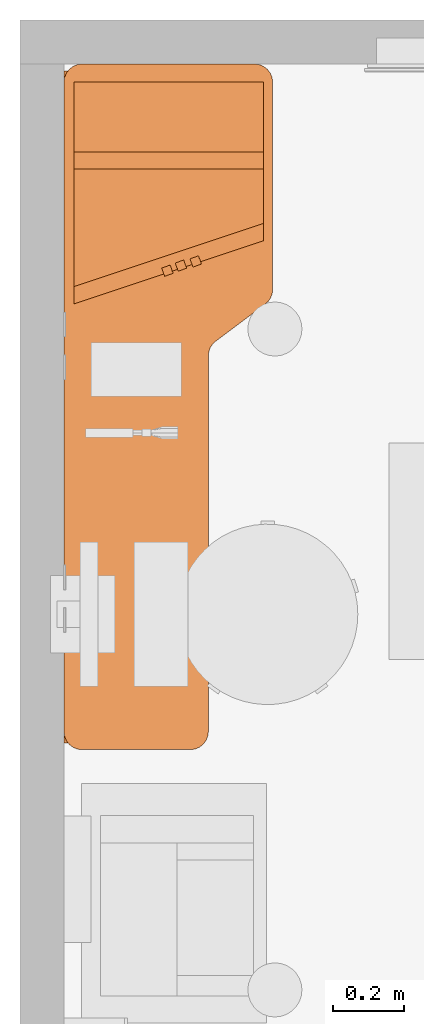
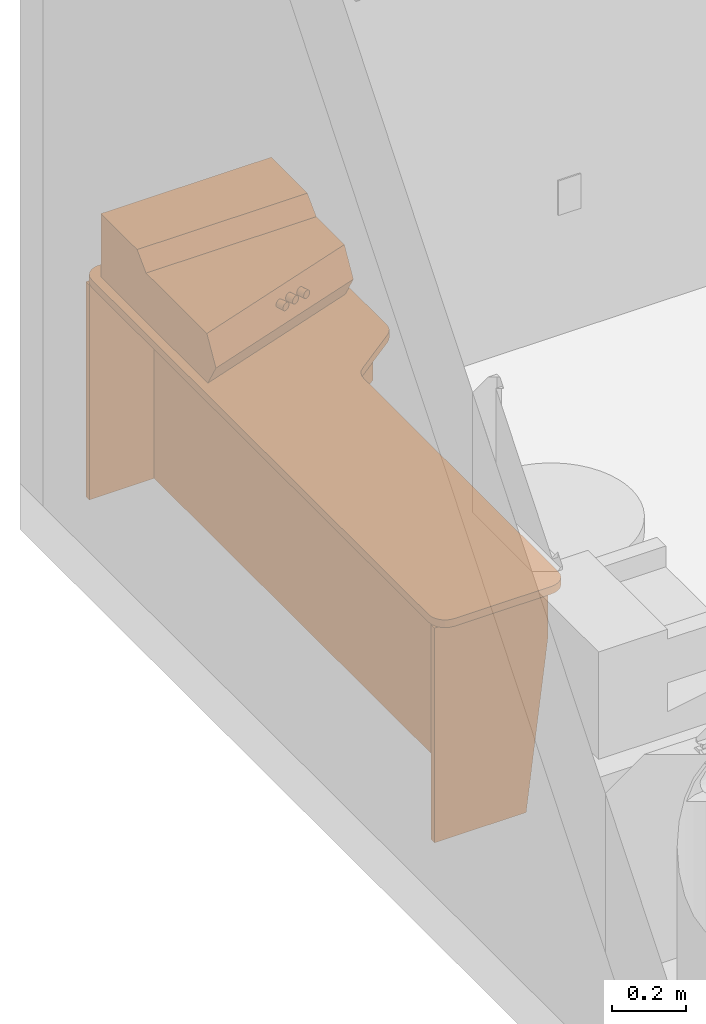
# One storey, part 7 of 11: 1 proxy.
"""IFC2X3 building model written with IfcOpenShell, lengths in feet."""

from ifc_helpers import new_model, entity, si_unit, converted_unit, derived_unit, direction, frame, origin, place, context, subcontext, project, spatial, faceted_brep, source, transform, mapped, material, type_object, type_shapes, element, save


model = new_model("IFC2X3")

# Units and contexts
model_context = context("Model", 3, precision=0.0001, world=origin(), true_north=direction((6.12303176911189e-17, 1.0)))
body_context = subcontext(model_context, "Body", "Model", "MODEL_VIEW")
ifc_project = project(units=[converted_unit("LENGTHUNIT", "FOOT", entity("IfcRatioMeasure", 0.3048), si_unit("LENGTHUNIT", "METRE"), dimensions=[1, 0, 0, 0, 0, 0, 0]), converted_unit("AREAUNIT", "SQUARE FOOT", entity("IfcRatioMeasure", 0.09290304), si_unit("AREAUNIT", "SQUARE_METRE"), dimensions=[2, 0, 0, 0, 0, 0, 0]), converted_unit("VOLUMEUNIT", "CUBIC FOOT", entity("IfcRatioMeasure", 0.028316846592), si_unit("VOLUMEUNIT", "CUBIC_METRE"), dimensions=[3, 0, 0, 0, 0, 0, 0]), converted_unit("PLANEANGLEUNIT", "DEGREE", entity("IfcRatioMeasure", 0.0174532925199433), si_unit("PLANEANGLEUNIT", "RADIAN"), dimensions=[0, 0, 0, 0, 0, 0, 0]), si_unit("MASSUNIT", "GRAM", prefix="KILO"), derived_unit("MASSDENSITYUNIT", [(si_unit("MASSUNIT", "GRAM", prefix="KILO"), 1), (si_unit("LENGTHUNIT", "METRE"), -3)]), si_unit("TIMEUNIT", "SECOND"), si_unit("FREQUENCYUNIT", "HERTZ"), si_unit("THERMODYNAMICTEMPERATUREUNIT", "DEGREE_CELSIUS"), derived_unit("THERMALTRANSMITTANCEUNIT", [(si_unit("MASSUNIT", "GRAM", prefix="KILO"), 1), (si_unit("THERMODYNAMICTEMPERATUREUNIT", "KELVIN"), -1), (si_unit("TIMEUNIT", "SECOND"), -3)]), derived_unit("VOLUMETRICFLOWRATEUNIT", [(si_unit("LENGTHUNIT", "METRE"), 3), (si_unit("TIMEUNIT", "SECOND"), -1)]), si_unit("ELECTRICCURRENTUNIT", "AMPERE"), si_unit("ELECTRICVOLTAGEUNIT", "VOLT"), si_unit("POWERUNIT", "WATT"), si_unit("FORCEUNIT", "NEWTON"), si_unit("ILLUMINANCEUNIT", "LUX"), si_unit("LUMINOUSFLUXUNIT", "LUMEN"), si_unit("LUMINOUSINTENSITYUNIT", "CANDELA"), derived_unit("USERDEFINED", [(si_unit("MASSUNIT", "GRAM", prefix="KILO"), -1), (si_unit("LENGTHUNIT", "METRE"), -2), (si_unit("TIMEUNIT", "SECOND"), 3), (si_unit("LUMINOUSFLUXUNIT", "LUMEN"), 1)]), derived_unit("LINEARVELOCITYUNIT", [(si_unit("LENGTHUNIT", "METRE"), 1), (si_unit("TIMEUNIT", "SECOND"), -1)]), si_unit("PRESSUREUNIT", "PASCAL"), derived_unit("USERDEFINED", [(si_unit("LENGTHUNIT", "METRE"), -2), (si_unit("MASSUNIT", "GRAM", prefix="KILO"), 1), (si_unit("TIMEUNIT", "SECOND"), -2)])], contexts=[model_context])

# Site, building, storey, space
site_placement = place(None, origin())
site = spatial("IfcSite", under=ifc_project, at=site_placement, Name="Default", CompositionType="ELEMENT")
building_placement = place(site_placement, origin())
building = spatial("IfcBuilding", under=site, at=building_placement, Name="EYE CLINIC:  OPTHALMOLOGY AND OPTOMETRY SERVICES (Ch. 233)", CompositionType="ELEMENT")
storey_placement = place(building_placement, origin())
storey = spatial("IfcBuildingStorey", under=building, at=storey_placement, Name="DATUM", CompositionType="ELEMENT", Elevation=0.0)
space_placement = place(storey_placement, origin())
space = spatial("IfcSpace", under=storey, at=space_placement, Name="(OPET2)", CompositionType="ELEMENT", InteriorOrExteriorSpace="INTERNAL")

# Proxy
ifc_material = material(Name="Paint White")
building_element_proxy_type = type_object("IfcBuildingElementProxyType", Name="M5016 - Desk, Refraction w-console, w-o Sink", PredefinedType="NOTDEFINED", material=ifc_material)
shared_shape = source(origin(), body_context, "Body", "Brep", [
    faceted_brep([(3.04166666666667, -0.500000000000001, 1.27083333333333), (3.04166666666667, -0.583333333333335, 1.27083333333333), (3.04166666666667, -0.583333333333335, 0.208333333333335), (3.04166666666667, -0.500000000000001, 0.208333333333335), (1.54166666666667, -0.500000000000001, 1.27083333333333), (1.54166666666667, -0.500000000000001, 0.208333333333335), (1.54166666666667, -0.583333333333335, 0.208333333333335), (1.54166666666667, -0.583333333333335, 1.27083333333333)], [[[0, 1, 2, 3]], [[4, 5, 6, 7]], [[1, 0, 4, 7]], [[2, 1, 7, 6]], [[3, 2, 6, 5]], [[0, 3, 5, 4]]]),
    faceted_brep([(3.04166666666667, -0.5, 1.79166666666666), (3.04166666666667, -0.583333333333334, 1.79166666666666), (3.04166666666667, -0.583333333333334, 1.29166666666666), (3.04166666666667, -0.5, 1.29166666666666), (1.54166666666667, -0.5, 1.79166666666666), (1.54166666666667, -0.5, 1.29166666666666), (1.54166666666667, -0.583333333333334, 1.29166666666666), (1.54166666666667, -0.583333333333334, 1.79166666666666)], [[[0, 1, 2, 3]], [[4, 5, 6, 7]], [[1, 0, 4, 7]], [[2, 1, 7, 6]], [[3, 2, 6, 5]], [[0, 3, 5, 4]]]),
    faceted_brep([(3.04166666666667, -0.5, 2.31249999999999), (3.04166666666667, -0.583333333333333, 2.31249999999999), (3.04166666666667, -0.583333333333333, 1.81249999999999), (3.04166666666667, -0.5, 1.81249999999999), (1.54166666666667, -0.5, 2.31249999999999), (1.54166666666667, -0.5, 1.81249999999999), (1.54166666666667, -0.583333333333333, 1.81249999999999), (1.54166666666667, -0.583333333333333, 2.31249999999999)], [[[0, 1, 2, 3]], [[4, 5, 6, 7]], [[1, 0, 4, 7]], [[2, 1, 7, 6]], [[3, 2, 6, 5]], [[0, 3, 5, 4]]]),
    faceted_brep([(3.04166666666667, -0.416666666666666, 0.208333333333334), (3.04166666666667, -0.416666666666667, 0.0), (3.04166666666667, -0.354166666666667, 0.0), (3.04166666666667, -0.354166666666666, 0.208333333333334), (1.54166666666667, -0.416666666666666, 0.208333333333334), (1.54166666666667, -0.354166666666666, 0.208333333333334), (1.54166666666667, -0.354166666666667, 0.0), (1.54166666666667, -0.416666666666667, 0.0)], [[[0, 1, 2, 3]], [[4, 5, 6, 7]], [[1, 0, 4, 7]], [[2, 1, 7, 6]], [[3, 2, 6, 5]], [[0, 3, 5, 4]]]),
    faceted_brep([(1.37724558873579, 0.14024584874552, 2.81666681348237), (1.37380855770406, 0.149689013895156, 2.82082933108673), (1.37085711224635, 0.157798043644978, 2.82745094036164), (1.3685923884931, 0.16402032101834, 2.83608038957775), (1.36716872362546, 0.167931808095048, 2.84612959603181), (1.36668313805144, 0.169265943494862, 2.85691372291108), (1.36716872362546, 0.167931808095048, 2.86769784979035), (1.3685923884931, 0.16402032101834, 2.87774705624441), (1.37085711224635, 0.157798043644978, 2.88637650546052), (1.37380855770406, 0.149689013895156, 2.89299811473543), (1.37724558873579, 0.14024584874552, 2.89716063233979), (1.38093397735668, 0.13011208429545, 2.89858038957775), (1.38462236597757, 0.119978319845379, 2.89716063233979), (1.3880593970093, 0.110535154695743, 2.89299811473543), (1.39101084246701, 0.102426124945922, 2.88637650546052), (1.39327556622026, 0.096203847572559, 2.87774705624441), (1.3946992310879, 0.0922923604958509, 2.86769784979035), (1.39518481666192, 0.0909582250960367, 2.85691372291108), (1.3946992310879, 0.0922923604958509, 2.84612959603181), (1.39327556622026, 0.0962038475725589, 2.83608038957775), (1.39101084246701, 0.102426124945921, 2.82745094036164), (1.3880593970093, 0.110535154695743, 2.82082933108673), (1.38462236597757, 0.119978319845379, 2.81666681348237), (1.38093397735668, 0.130112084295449, 2.81524705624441), (1.30501005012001, 0.10247803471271, 2.89858038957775), (1.30132166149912, 0.112611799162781, 2.89716063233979), (1.2978846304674, 0.122054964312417, 2.89299811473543), (1.29493318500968, 0.130163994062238, 2.88637650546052), (1.29266846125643, 0.136386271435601, 2.87774705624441), (1.29124479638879, 0.140297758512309, 2.86769784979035), (1.29075921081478, 0.141631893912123, 2.85691372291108), (1.29124479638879, 0.140297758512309, 2.84612959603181), (1.29266846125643, 0.136386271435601, 2.83608038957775), (1.29493318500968, 0.130163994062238, 2.82745094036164), (1.2978846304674, 0.122054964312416, 2.82082933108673), (1.30132166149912, 0.112611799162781, 2.81666681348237), (1.30501005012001, 0.10247803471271, 2.81524705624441), (1.30869843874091, 0.0923442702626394, 2.81666681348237), (1.31213546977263, 0.0829011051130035, 2.82082933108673), (1.31508691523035, 0.0747920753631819, 2.82745094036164), (1.3173516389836, 0.0685697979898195, 2.83608038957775), (1.31877530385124, 0.0646583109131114, 2.84612959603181), (1.31926088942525, 0.0633241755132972, 2.85691372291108), (1.31877530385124, 0.0646583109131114, 2.86769784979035), (1.3173516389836, 0.0685697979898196, 2.87774705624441), (1.31508691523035, 0.0747920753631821, 2.88637650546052), (1.31213546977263, 0.0829011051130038, 2.89299811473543), (1.30869843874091, 0.0923442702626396, 2.89716063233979)], [[[0, 1, 2, 3, 4, 5, 6, 7, 8, 9, 10, 11, 12, 13, 14, 15, 16, 17, 18, 19, 20, 21, 22, 23]], [[24, 25, 26, 27, 28, 29, 30, 31, 32, 33, 34, 35, 36, 37, 38, 39, 40, 41, 42, 43, 44, 45, 46, 47]], [[41, 18, 17, 42]], [[40, 19, 18, 41]], [[37, 36, 23, 22]], [[39, 20, 19, 40]], [[38, 21, 20, 39]], [[38, 37, 22, 21]], [[0, 35, 34, 1]], [[33, 2, 1, 34]], [[3, 32, 31, 4]], [[33, 32, 3, 2]], [[4, 31, 30, 5]], [[35, 0, 23, 36]], [[29, 6, 5, 30]], [[28, 7, 6, 29]], [[27, 26, 9, 8]], [[28, 27, 8, 7]], [[11, 10, 25, 24]], [[10, 9, 26, 25]], [[12, 47, 46, 13]], [[45, 14, 13, 46]], [[15, 44, 43, 16]], [[45, 44, 15, 14]], [[16, 43, 42, 17]], [[47, 12, 11, 24]]]),
    faceted_brep([(1.33868745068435, 0.277154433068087, 2.82708348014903), (1.33525041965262, 0.286597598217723, 2.83124599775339), (1.33229897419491, 0.294706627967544, 2.83786760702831), (1.33003425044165, 0.300928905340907, 2.84649705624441), (1.32861058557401, 0.304840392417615, 2.85654626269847), (1.328125, 0.306174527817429, 2.86733038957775), (1.32861058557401, 0.304840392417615, 2.87811451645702), (1.33003425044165, 0.300928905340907, 2.88816372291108), (1.3322989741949, 0.294706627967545, 2.89679317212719), (1.33525041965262, 0.286597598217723, 2.9034147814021), (1.33868745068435, 0.277154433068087, 2.90757729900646), (1.34237583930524, 0.267020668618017, 2.90899705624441), (1.34606422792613, 0.256886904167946, 2.90757729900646), (1.34950125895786, 0.24744373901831, 2.9034147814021), (1.35245270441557, 0.239334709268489, 2.89679317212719), (1.35471742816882, 0.233112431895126, 2.88816372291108), (1.35614109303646, 0.229200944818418, 2.87811451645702), (1.35662667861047, 0.227866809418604, 2.86733038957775), (1.35614109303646, 0.229200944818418, 2.85654626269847), (1.35471742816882, 0.233112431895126, 2.84649705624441), (1.35245270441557, 0.239334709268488, 2.83786760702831), (1.34950125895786, 0.24744373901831, 2.83124599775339), (1.34606422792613, 0.256886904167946, 2.82708348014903), (1.34237583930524, 0.267020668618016, 2.82566372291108), (1.26645191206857, 0.239386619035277, 2.90899705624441), (1.26276352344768, 0.249520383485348, 2.90757729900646), (1.25932649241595, 0.258963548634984, 2.9034147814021), (1.25637504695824, 0.267072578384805, 2.89679317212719), (1.25411032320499, 0.273294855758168, 2.88816372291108), (1.25268665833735, 0.277206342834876, 2.87811451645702), (1.25220107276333, 0.27854047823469, 2.86733038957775), (1.25268665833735, 0.277206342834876, 2.85654626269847), (1.25411032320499, 0.273294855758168, 2.84649705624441), (1.25637504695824, 0.267072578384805, 2.83786760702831), (1.25932649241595, 0.258963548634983, 2.83124599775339), (1.26276352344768, 0.249520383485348, 2.82708348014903), (1.26645191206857, 0.239386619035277, 2.82566372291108), (1.27014030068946, 0.229252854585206, 2.82708348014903), (1.27357733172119, 0.219809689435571, 2.83124599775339), (1.2765287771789, 0.211700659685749, 2.83786760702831), (1.27879350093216, 0.205478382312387, 2.84649705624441), (1.28021716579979, 0.201566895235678, 2.85654626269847), (1.28070275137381, 0.200232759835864, 2.86733038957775), (1.28021716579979, 0.201566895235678, 2.87811451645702), (1.27879350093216, 0.205478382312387, 2.88816372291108), (1.2765287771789, 0.211700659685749, 2.89679317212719), (1.27357733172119, 0.219809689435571, 2.9034147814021), (1.27014030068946, 0.229252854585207, 2.90757729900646)], [[[0, 1, 2, 3, 4, 5, 6, 7, 8, 9, 10, 11, 12, 13, 14, 15, 16, 17, 18, 19, 20, 21, 22, 23]], [[24, 25, 26, 27, 28, 29, 30, 31, 32, 33, 34, 35, 36, 37, 38, 39, 40, 41, 42, 43, 44, 45, 46, 47]], [[41, 18, 17, 42]], [[40, 19, 18, 41]], [[37, 36, 23, 22]], [[39, 20, 19, 40]], [[38, 21, 20, 39]], [[38, 37, 22, 21]], [[0, 35, 34, 1]], [[33, 2, 1, 34]], [[3, 32, 31, 4]], [[33, 32, 3, 2]], [[4, 31, 30, 5]], [[35, 0, 23, 36]], [[29, 6, 5, 30]], [[28, 7, 6, 29]], [[27, 26, 9, 8]], [[28, 27, 8, 7]], [[11, 10, 25, 24]], [[10, 9, 26, 25]], [[12, 47, 46, 13]], [[45, 14, 13, 46]], [[15, 44, 43, 16]], [[45, 44, 15, 14]], [[16, 43, 42, 17]], [[47, 12, 11, 24]]]),
    faceted_brep([(1.29181245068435, 0.402154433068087, 2.82708348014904), (1.28837541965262, 0.411597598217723, 2.83124599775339), (1.28542397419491, 0.419706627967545, 2.83786760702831), (1.28315925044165, 0.425928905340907, 2.84649705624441), (1.28173558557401, 0.429840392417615, 2.85654626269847), (1.28125, 0.43117452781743, 2.86733038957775), (1.28173558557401, 0.429840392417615, 2.87811451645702), (1.28315925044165, 0.425928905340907, 2.88816372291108), (1.2854239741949, 0.419706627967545, 2.89679317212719), (1.28837541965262, 0.411597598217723, 2.9034147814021), (1.29181245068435, 0.402154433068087, 2.90757729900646), (1.29550083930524, 0.392020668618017, 2.90899705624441), (1.29918922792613, 0.381886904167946, 2.90757729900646), (1.30262625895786, 0.37244373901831, 2.9034147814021), (1.30557770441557, 0.364334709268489, 2.89679317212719), (1.30784242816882, 0.358112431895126, 2.88816372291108), (1.30926609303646, 0.354200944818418, 2.87811451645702), (1.30975167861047, 0.352866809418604, 2.86733038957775), (1.30926609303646, 0.354200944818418, 2.85654626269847), (1.30784242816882, 0.358112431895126, 2.84649705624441), (1.30557770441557, 0.364334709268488, 2.83786760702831), (1.30262625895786, 0.37244373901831, 2.8312459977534), (1.29918922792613, 0.381886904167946, 2.82708348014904), (1.29550083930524, 0.392020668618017, 2.82566372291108), (1.21957691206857, 0.364386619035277, 2.90899705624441), (1.21588852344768, 0.374520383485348, 2.90757729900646), (1.21245149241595, 0.383963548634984, 2.9034147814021), (1.20950004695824, 0.392072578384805, 2.89679317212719), (1.20723532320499, 0.398294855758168, 2.88816372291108), (1.20581165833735, 0.402206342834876, 2.87811451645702), (1.20532607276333, 0.40354047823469, 2.86733038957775), (1.20581165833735, 0.402206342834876, 2.85654626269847), (1.20723532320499, 0.398294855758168, 2.84649705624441), (1.20950004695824, 0.392072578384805, 2.83786760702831), (1.21245149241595, 0.383963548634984, 2.83124599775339), (1.21588852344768, 0.374520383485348, 2.82708348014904), (1.21957691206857, 0.364386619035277, 2.82566372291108), (1.22326530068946, 0.354252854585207, 2.82708348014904), (1.22670233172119, 0.344809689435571, 2.8312459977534), (1.2296537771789, 0.336700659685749, 2.83786760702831), (1.23191850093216, 0.330478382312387, 2.84649705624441), (1.23334216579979, 0.326566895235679, 2.85654626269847), (1.23382775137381, 0.325232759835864, 2.86733038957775), (1.23334216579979, 0.326566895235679, 2.87811451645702), (1.23191850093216, 0.330478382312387, 2.88816372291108), (1.2296537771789, 0.336700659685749, 2.89679317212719), (1.22670233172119, 0.344809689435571, 2.9034147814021), (1.22326530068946, 0.354252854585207, 2.90757729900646)], [[[0, 1, 2, 3, 4, 5, 6, 7, 8, 9, 10, 11, 12, 13, 14, 15, 16, 17, 18, 19, 20, 21, 22, 23]], [[24, 25, 26, 27, 28, 29, 30, 31, 32, 33, 34, 35, 36, 37, 38, 39, 40, 41, 42, 43, 44, 45, 46, 47]], [[41, 18, 17, 42]], [[40, 19, 18, 41]], [[37, 36, 23, 22]], [[39, 20, 19, 40]], [[38, 21, 20, 39]], [[38, 37, 22, 21]], [[0, 35, 34, 1]], [[33, 2, 1, 34]], [[3, 32, 31, 4]], [[33, 32, 3, 2]], [[4, 31, 30, 5]], [[35, 0, 23, 36]], [[29, 6, 5, 30]], [[28, 7, 6, 29]], [[27, 26, 9, 8]], [[28, 27, 8, 7]], [[11, 10, 25, 24]], [[10, 9, 26, 25]], [[12, 47, 46, 13]], [[45, 14, 13, 46]], [[15, 44, 43, 16]], [[45, 44, 15, 14]], [[16, 43, 42, 17]], [[47, 12, 11, 24]]]),
    faceted_brep([(0.0, 0.159509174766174, 2.33333333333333), (0.645833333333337, 0.159509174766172, 2.33333333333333), (1.12711010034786, -0.479166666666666, 2.33333333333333), (1.54166666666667, -0.479166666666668, 2.33333333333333), (1.54166666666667, -0.416666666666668, 2.33333333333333), (1.1582714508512, -0.416666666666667, 2.33333333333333), (0.676994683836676, 0.222009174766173, 2.33333333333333), (0.0625000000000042, 0.222009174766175, 2.33333333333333), (0.0625000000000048, 0.597009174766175, 2.33333333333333), (0.0, 0.597009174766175, 2.33333333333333), (0.0, 0.159509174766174, 1.89583333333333), (0.0, 0.597009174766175, 1.89583333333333), (0.0625000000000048, 0.597009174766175, 1.89583333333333), (0.0625000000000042, 0.222009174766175, 1.89583333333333), (0.676994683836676, 0.222009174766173, 1.89583333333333), (1.1582714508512, -0.416666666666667, 1.89583333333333), (1.54166666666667, -0.416666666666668, 1.89583333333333), (1.54166666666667, -0.479166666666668, 1.89583333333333), (1.12711010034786, -0.479166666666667, 1.89583333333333), (0.645833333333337, 0.159509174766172, 1.89583333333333)], [[[0, 1, 2, 3, 4, 5, 6, 7, 8, 9]], [[10, 11, 12, 13, 14, 15, 16, 17, 18, 19]], [[3, 2, 18, 17]], [[4, 3, 17, 16]], [[5, 4, 16, 15]], [[8, 7, 13, 12]], [[9, 8, 12, 11]], [[0, 9, 11, 10]], [[1, 0, 10, 19]], [[2, 1, 19, 18]], [[6, 5, 15, 14]], [[7, 6, 14, 13]]]),
    faceted_brep([(1.54166666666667, 0.59700917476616, 1.89583333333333), (-3.04166666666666, 0.597009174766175, 1.89583333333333), (-3.04166666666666, 0.159509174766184, 1.89583333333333), (0.645833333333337, 0.159509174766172, 1.89583333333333), (1.12711010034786, -0.479166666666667, 1.89583333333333), (1.54166666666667, -0.479166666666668, 1.89583333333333), (1.54166666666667, 0.597009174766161, 1.83333333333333), (1.54166666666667, -0.479166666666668, 1.83333333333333), (1.12711010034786, -0.479166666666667, 1.83333333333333), (0.645833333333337, 0.159509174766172, 1.83333333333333), (-3.04166666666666, 0.159509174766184, 1.83333333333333), (-3.04166666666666, 0.597009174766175, 1.83333333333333)], [[[0, 1, 2, 3, 4, 5]], [[6, 7, 8, 9, 10, 11]], [[1, 0, 6, 11]], [[2, 1, 11, 10]], [[3, 2, 10, 9]], [[5, 4, 8, 7]], [[0, 5, 7, 6]], [[4, 3, 9, 8]]]),
    faceted_brep([(1.60416666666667, 0.597009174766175, 0.0), (1.60416666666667, 0.597009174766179, 2.33333333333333), (1.60416666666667, -0.5, 2.33333333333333), (1.60416666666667, -0.500000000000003, 0.20833333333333), (1.60416666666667, -0.354166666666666, 0.208333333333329), (1.60416666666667, -0.354166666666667, 0.0), (1.54166666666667, 0.597009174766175, 0.0), (1.54166666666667, -0.354166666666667, 0.0), (1.54166666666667, -0.354166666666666, 0.208333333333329), (1.54166666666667, -0.500000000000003, 0.20833333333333), (1.54166666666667, -0.5, 2.33333333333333), (1.54166666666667, 0.597009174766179, 2.33333333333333)], [[[0, 1, 2, 3, 4, 5]], [[6, 7, 8, 9, 10, 11]], [[0, 5, 7, 6]], [[1, 0, 6, 11]], [[2, 1, 11, 10]], [[3, 2, 10, 9]], [[4, 3, 9, 8]], [[5, 4, 8, 7]]]),
    faceted_brep([(3.04166666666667, 0.597009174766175, 0.208333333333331), (3.04166666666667, 0.597009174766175, 0.270833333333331), (3.04166666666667, -0.500000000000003, 0.270833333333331), (3.04166666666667, -0.500000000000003, 0.208333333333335), (1.54166666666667, 0.597009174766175, 0.208333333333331), (1.54166666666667, -0.500000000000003, 0.208333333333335), (1.54166666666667, -0.500000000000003, 0.270833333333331), (1.54166666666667, 0.597009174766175, 0.270833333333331)], [[[0, 1, 2, 3]], [[4, 5, 6, 7]], [[1, 0, 4, 7]], [[2, 1, 7, 6]], [[3, 2, 6, 5]], [[0, 3, 5, 4]]]),
    faceted_brep([(3.10416666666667, 1.33333333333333, 2.33333333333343), (3.10416666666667, -0.511265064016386, 2.33333333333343), (3.10416666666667, -0.51126506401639, 0.0), (3.10416666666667, 1.33333333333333, 0.0), (3.04166666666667, 1.33333333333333, 2.33333333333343), (3.04166666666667, 1.33333333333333, 0.0), (3.04166666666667, -0.51126506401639, 0.0), (3.04166666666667, -0.511265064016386, 2.33333333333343)], [[[0, 1, 2, 3]], [[4, 5, 6, 7]], [[0, 3, 5, 4]], [[1, 0, 4, 7]], [[2, 1, 7, 6]], [[3, 2, 6, 5]]]),
    faceted_brep([(-3.04166666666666, 1.33333333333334, 0.0), (-3.04166666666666, 1.33333333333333, 2.33333333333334), (-3.04166666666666, 0.166666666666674, 2.33333333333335), (-3.04166666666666, 0.166666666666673, 1.83333333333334), (-3.04166666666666, 0.391771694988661, 0.0), (-3.10416666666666, 1.33333333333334, 0.0), (-3.10416666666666, 0.391771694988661, 0.0), (-3.10416666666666, 0.166666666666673, 1.83333333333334), (-3.10416666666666, 0.166666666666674, 2.33333333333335), (-3.10416666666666, 1.33333333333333, 2.33333333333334)], [[[0, 1, 2, 3, 4]], [[5, 6, 7, 8, 9]], [[0, 4, 6, 5]], [[1, 0, 5, 9]], [[2, 1, 9, 8]], [[3, 2, 8, 7]], [[4, 3, 7, 6]]]),
    faceted_brep([(3.04166666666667, 0.597009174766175, 0.0), (3.04166666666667, 0.666666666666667, 0.0), (3.04166666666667, 0.666666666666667, 2.33333333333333), (3.04166666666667, 0.597009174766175, 2.33333333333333), (-3.04166666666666, 0.597009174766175, 0.0), (-3.04166666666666, 0.597009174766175, 2.33333333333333), (-3.04166666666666, 0.666666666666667, 2.33333333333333), (-3.04166666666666, 0.666666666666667, 0.0)], [[[0, 1, 2, 3]], [[4, 5, 6, 7]], [[1, 0, 4, 7]], [[2, 1, 7, 6]], [[3, 2, 6, 5]], [[0, 3, 5, 4]]]),
    faceted_brep([(2.19526214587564, 1.23947965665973, 2.94526214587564), (2.19526214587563, 1.23947965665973, 2.41666666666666), (1.09541920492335, 1.23947965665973, 2.41666666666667), (0.951081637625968, 1.23947965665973, 2.66666666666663), (1.1119288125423, 1.23947965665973, 2.94526214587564), (2.19526214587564, -0.511265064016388, 2.94526214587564), (1.69526214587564, -0.511265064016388, 2.94526214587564), (1.5344149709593, -0.511265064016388, 2.66666666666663), (1.67875253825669, -0.511265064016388, 2.41666666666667), (2.19526214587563, -0.511265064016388, 2.41666666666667)], [[[0, 1, 2, 3, 4]], [[5, 6, 7, 8, 9]], [[6, 5, 0, 4]], [[7, 6, 4, 3]], [[8, 7, 3, 2]], [[9, 8, 2, 1]], [[5, 9, 1, 0]]]),
    faceted_brep([(3.0, -0.511265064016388, 3.10420173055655), (2.35420173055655, -0.511265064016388, 3.10420173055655), (2.19526214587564, -0.511265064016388, 2.94526214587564), (2.19526214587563, -0.511265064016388, 2.41666666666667), (3.0, -0.511265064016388, 2.41666666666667), (3.0, 1.23947965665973, 3.10420173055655), (3.0, 1.23947965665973, 2.41666666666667), (2.19526214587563, 1.23947965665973, 2.41666666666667), (2.19526214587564, 1.23947965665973, 2.94526214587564), (2.35420173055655, 1.23947965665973, 3.10420173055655)], [[[0, 1, 2, 3, 4]], [[5, 6, 7, 8, 9]], [[1, 0, 5, 9]], [[2, 1, 9, 8]], [[3, 2, 8, 7]], [[4, 3, 7, 6]], [[0, 4, 6, 5]]]),
    faceted_brep([(3.0, 1.33333333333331, 2.41666666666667), (-3.0, 1.33333333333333, 2.41666666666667), (-3.04313650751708, 1.32765430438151, 2.41666666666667), (-3.08333333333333, 1.31100423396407, 2.41666666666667), (-3.11785113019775, 1.28451779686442, 2.41666666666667), (-3.1443375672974, 1.25, 2.41666666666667), (-3.16098763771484, 1.20980317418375, 2.41666666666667), (-3.16666666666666, 1.16666666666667, 2.41666666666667), (-3.16666666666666, 0.166666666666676, 2.41666666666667), (-3.16098763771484, 0.12353015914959, 2.41666666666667), (-3.1443375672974, 0.0833333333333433, 2.41666666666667), (-3.11785113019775, 0.0488155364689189, 2.41666666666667), (-3.08333333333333, 0.0223290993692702, 2.41666666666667), (-3.04313650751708, 0.00567902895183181, 2.41666666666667), (-3.0, 0.0, 2.41666666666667), (0.47135416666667, 0.0, 2.41666666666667), (0.50964632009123, -0.00445850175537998, 2.41666666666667), (0.545889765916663, -0.0175954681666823, 2.41666666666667), (0.578145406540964, -0.038708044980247, 2.41666666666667), (0.604687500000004, -0.0666666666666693, 2.41666666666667), (0.949999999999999, -0.527083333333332, 2.41666666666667), (0.976542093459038, -0.555041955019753, 2.41666666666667), (1.00879773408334, -0.576154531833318, 2.41666666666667), (1.04504117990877, -0.589291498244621, 2.41666666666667), (1.08333333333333, -0.593749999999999, 2.41666666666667), (3.0, -0.593749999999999, 2.41666666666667), (3.04313650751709, -0.588070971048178, 2.41666666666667), (3.08333333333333, -0.57142090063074, 2.41666666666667), (3.11785113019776, -0.544934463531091, 2.41666666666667), (3.14433756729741, -0.510416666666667, 2.41666666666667), (3.16098763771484, -0.470219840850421, 2.41666666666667), (3.16666666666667, -0.427083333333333, 2.41666666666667), (3.16666666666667, 1.16666666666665, 2.41666666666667), (3.16098763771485, 1.20980317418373, 2.41666666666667), (3.14433756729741, 1.24999999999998, 2.41666666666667), (3.11785113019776, 1.2845177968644, 2.41666666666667), (3.08333333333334, 1.31100423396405, 2.41666666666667), (3.04313650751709, 1.32765430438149, 2.41666666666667), (-3.16666666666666, 0.166666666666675, 2.33333333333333), (-3.16666666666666, 1.16666666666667, 2.33333333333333), (-3.16098763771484, 1.20980317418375, 2.33333333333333), (-3.1443375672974, 1.25, 2.33333333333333), (-3.11785113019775, 1.28451779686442, 2.33333333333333), (-3.08333333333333, 1.31100423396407, 2.33333333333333), (-3.04313650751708, 1.32765430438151, 2.33333333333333), (-3.0, 1.33333333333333, 2.33333333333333), (3.0, 1.33333333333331, 2.33333333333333), (3.04313650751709, 1.32765430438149, 2.33333333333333), (3.08333333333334, 1.31100423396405, 2.33333333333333), (3.11785113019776, 1.2845177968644, 2.33333333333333), (3.14433756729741, 1.24999999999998, 2.33333333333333), (3.16098763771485, 1.20980317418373, 2.33333333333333), (3.16666666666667, 1.16666666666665, 2.33333333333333), (3.16666666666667, -0.427083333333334, 2.33333333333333), (3.16098763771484, -0.470219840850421, 2.33333333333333), (3.14433756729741, -0.510416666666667, 2.33333333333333), (3.11785113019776, -0.544934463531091, 2.33333333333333), (3.08333333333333, -0.57142090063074, 2.33333333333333), (3.04313650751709, -0.588070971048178, 2.33333333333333), (3.0, -0.593749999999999, 2.33333333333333), (1.08333333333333, -0.593749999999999, 2.33333333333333), (1.04504117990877, -0.589291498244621, 2.33333333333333), (1.00879773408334, -0.576154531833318, 2.33333333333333), (0.976542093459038, -0.555041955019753, 2.33333333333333), (0.95, -0.527083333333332, 2.33333333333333), (0.604687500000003, -0.066666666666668, 2.33333333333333), (0.578145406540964, -0.038708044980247, 2.33333333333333), (0.545889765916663, -0.0175954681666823, 2.33333333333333), (0.50964632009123, -0.00445850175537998, 2.33333333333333), (0.471354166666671, 0.0, 2.33333333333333), (-3.0, 0.0, 2.33333333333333), (-3.04313650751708, 0.00567902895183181, 2.33333333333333), (-3.08333333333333, 0.0223290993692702, 2.33333333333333), (-3.11785113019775, 0.0488155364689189, 2.33333333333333), (-3.1443375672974, 0.0833333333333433, 2.33333333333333), (-3.16098763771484, 0.12353015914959, 2.33333333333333)], [[[0, 1, 2, 3, 4, 5, 6, 7, 8, 9, 10, 11, 12, 13, 14, 15, 16, 17, 18, 19, 20, 21, 22, 23, 24, 25, 26, 27, 28, 29, 30, 31, 32, 33, 34, 35, 36, 37]], [[38, 39, 40, 41, 42, 43, 44, 45, 46, 47, 48, 49, 50, 51, 52, 53, 54, 55, 56, 57, 58, 59, 60, 61, 62, 63, 64, 65, 66, 67, 68, 69, 70, 71, 72, 73, 74, 75]], [[32, 31, 53, 52]], [[33, 32, 52, 51]], [[34, 33, 51, 50]], [[35, 34, 50, 49]], [[36, 35, 49, 48]], [[37, 36, 48, 47]], [[0, 37, 47, 46]], [[1, 0, 46, 45]], [[2, 1, 45, 44]], [[3, 2, 44, 43]], [[4, 3, 43, 42]], [[5, 4, 42, 41]], [[6, 5, 41, 40]], [[7, 6, 40, 39]], [[8, 7, 39, 38]], [[9, 8, 38, 75]], [[10, 9, 75, 74]], [[11, 10, 74, 73]], [[12, 11, 73, 72]], [[13, 12, 72, 71]], [[14, 13, 71, 70]], [[15, 14, 70, 69]], [[69, 68, 16, 15]], [[17, 16, 68, 67]], [[66, 65, 19, 18]], [[67, 66, 18, 17]], [[20, 19, 65, 64]], [[64, 63, 21, 20]], [[21, 63, 62, 22]], [[62, 61, 23, 22]], [[61, 60, 24, 23]], [[25, 24, 60, 59]], [[26, 25, 59, 58]], [[27, 26, 58, 57]], [[28, 27, 57, 56]], [[29, 28, 56, 55]], [[30, 29, 55, 54]], [[31, 30, 54, 53]]]),
])
type_shapes(building_element_proxy_type, [shared_shape])
proxy_placement = place(space_placement, frame((-34.5268974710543, 8.64095901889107, 0.0), z_axis=(0.0, 0.0, 1.0), x_axis=(0.0, 1.0, 0.0)))
element("IfcBuildingElementProxy", 1, at=proxy_placement, inside=space, type_object=building_element_proxy_type, material=ifc_material, Name="M5016 - Desk, Refraction w-console, w-o Sink:M5016 - Desk, Refraction w-console, w-o Sink", ObjectType="M5016 - Desk, Refraction w-console, w-o Sink", context=body_context, shape_type="MappedRepresentation", body=[
    mapped(shared_shape, transform((0.0, 0.0, 0.0), scale=1.0)),
])

save(model, "model.ifc")
